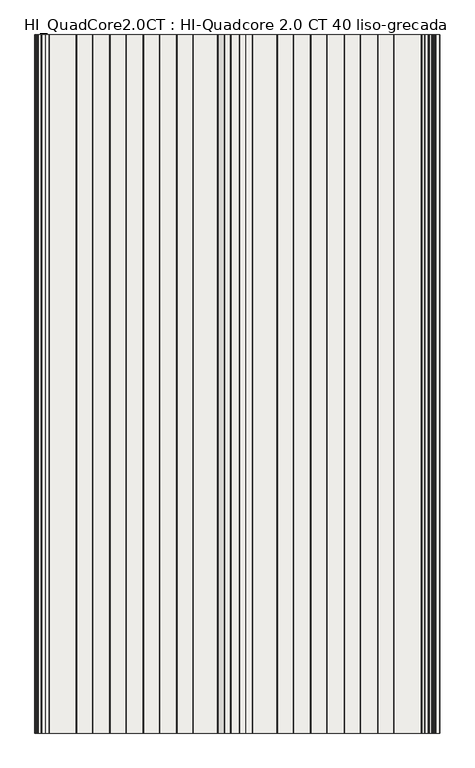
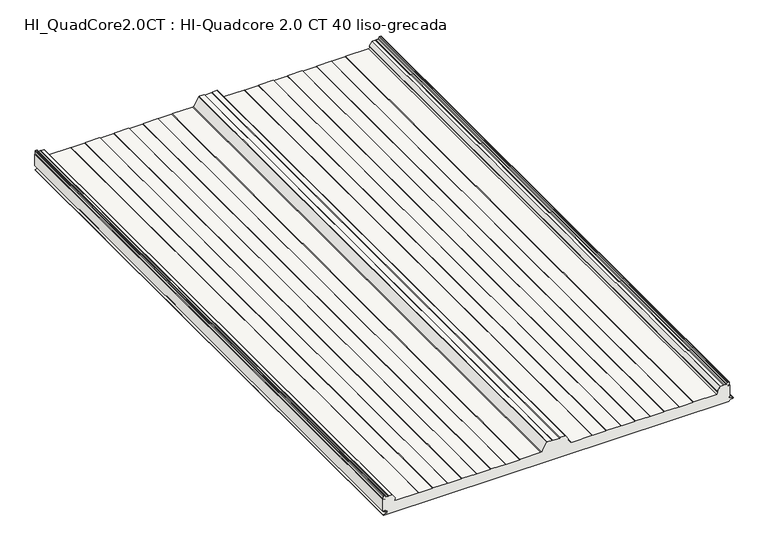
"""IFC4 building model written with IfcOpenShell, lengths in millimetres: slab geometry, HI_QuadCore2.0CT : HI-Quadcore 2.0 CT 40 liso-grecada."""

from ifc_helpers import new_model, si_unit, frame, origin, place, context, project, spatial, polyline, circle_curve, source, transform, mapped, element, save
from ifc_brep_helpers import plane_surface, cylinder_surface, revolved_surface, advanced_brep


def hi_quadcore2_0ct_hi_quadcore_2_0_ct_40_liso_grecada_08016a3a(model_context):
    return source(origin(), model_context, "Body", "AdvancedBrep", [
        advanced_brep(
        [(5.1475465, 0.0, 55.7425833), (1.3824194, 0.0, 57.9163804), (0.0, 0.0, 57.9163804), (0.0, 0.0, 16.239302), (7.510215, 0.0, 16.239302), (7.510215, 0.0, 15.4391074), (3.6125693, 0.0, 15.4391074), (2.4319301, 0.0, 14.2584682), (3.4276302, 0.0, 13.0866965), (11.8278581, 0.0, 11.7547343), (11.7995989, 0.0, 4.4809044), (1.8467032, 0.0, 2.9844289), (2.0100062, 0.0, 0.8), (1147.9590685, 0.0, 0.8), (1149.3391392, 0.0, 2.1800708), (1152.5664905, 0.0, 5.8294074), (1160.7843221, 0.0, 6.8264698), (1160.7843299, 0.0, 9.4135286), (1150.8450446, 0.0, 10.6192254), (1147.8324398, 0.0, 14.0237344), (1147.2282701, 0.0, 15.44), (1142.7624398, 0.0, 15.44), (1142.7624398, 0.0, 16.239302), (1150.0, 0.0, 16.239302), (1150.0, 0.0, 57.9163804), (1148.8824194, 0.0, 57.9163804), (1145.1172924, 0.0, 55.7425833), (1144.7172924, 0.0, 56.4354036), (1148.5824194, 0.0, 58.6669358), (1148.5824194, 0.0, 68.1), (1147.4824194, 0.0, 69.2), (1143.8888221, 0.0, 69.2), (1142.8725546, 0.0, 68.5209518), (1141.0157992, 0.0, 64.0383476), (1138.8631598, 0.0, 62.6), (1132.1371875, 0.0, 62.6), (1130.4324194, 0.0, 61.8110374), (1128.7276514, 0.0, 62.6), (1119.4004541, 0.0, 62.6), (1118.4939153, 0.0, 62.1230469), (1109.1558806, 0.0, 48.5361221), (1109.356723, 0.0, 47.0692788), (1110.3070878, 0.0, 46.2744554), (1107.4852773, 0.0, 39.2), (1031.3816122, 0.0, 39.2), (1029.6495614, 0.0, 38.2), (984.6152775, 0.0, 38.2), (982.8832267, 0.0, 39.2), (935.3816122, 0.0, 39.2), (933.6495614, 0.0, 38.2), (888.6152775, 0.0, 38.2), (886.8832267, 0.0, 39.2), (839.3816122, 0.0, 39.2), (837.6495614, 0.0, 38.2), (792.6152775, 0.0, 38.2), (790.8832267, 0.0, 39.2), (743.3816122, 0.0, 39.2), (741.6495614, 0.0, 38.2), (696.6152775, 0.0, 38.2), (694.8832267, 0.0, 39.2), (625.9029123, 0.0, 39.2), (623.9344839, 0.0, 40.2833287), (605.9445057, 0.0, 68.6885573), (605.0152048, 0.0, 69.2), (588.8816122, 0.0, 69.2), (586.283536, 0.0, 67.7), (563.9813029, 0.0, 67.7), (561.3832267, 0.0, 69.2), (545.2496341, 0.0, 69.2), (544.3203331, 0.0, 68.6885573), (526.330355, 0.0, 40.2833287), (524.3619266, 0.0, 39.2), (455.3816122, 0.0, 39.2), (453.6495614, 0.0, 38.2), (408.6152775, 0.0, 38.2), (406.8832267, 0.0, 39.2), (359.3816122, 0.0, 39.2), (357.6495614, 0.0, 38.2), (312.6152775, 0.0, 38.2), (310.8832267, 0.0, 39.2), (263.3816122, 0.0, 39.2), (261.6495614, 0.0, 38.2), (216.6152775, 0.0, 38.2), (214.8832267, 0.0, 39.2), (167.3816122, 0.0, 39.2), (165.6495614, 0.0, 38.2), (120.6152775, 0.0, 38.2), (118.8832267, 0.0, 39.2), (42.7795617, 0.0, 39.2), (39.9577511, 0.0, 46.2744555), (40.9081159, 0.0, 47.0692788), (41.1089583, 0.0, 48.5361221), (31.7709236, 0.0, 62.1230469), (30.8643848, 0.0, 62.6), (21.5371875, 0.0, 62.6), (19.8324194, 0.0, 61.8110374), (18.1276514, 0.0, 62.6), (11.4016791, 0.0, 62.6), (9.2490397, 0.0, 64.0383476), (7.3922843, 0.0, 68.5209518), (6.3760168, 0.0, 69.2), (2.7824194, 0.0, 69.2), (1.6824194, 0.0, 68.1), (1.6824194, 0.0, 58.6669358), (5.5475465, 0.0, 56.4354036), (5.1475465, 2000.0, 55.7425833), (5.5475465, 2000.0, 56.4354036), (1.6824194, 2000.0, 58.6669358), (1.6824194, 2000.0, 68.1), (2.7824194, 2000.0, 69.2), (6.3760168, 2000.0, 69.2), (7.3922843, 2000.0, 68.5209518), (9.2490397, 2000.0, 64.0383476), (11.4016791, 2000.0, 62.6), (18.1276514, 2000.0, 62.6), (19.8324194, 2000.0, 61.8110374), (21.5371875, 2000.0, 62.6), (30.8643848, 2000.0, 62.6), (31.7709236, 2000.0, 62.1230469), (41.1089583, 2000.0, 48.5361221), (40.9081159, 2000.0, 47.0692788), (39.9577511, 2000.0, 46.2744555), (42.7795617, 2000.0, 39.2), (118.8832267, 2000.0, 39.2), (120.6152775, 2000.0, 38.2), (165.6495614, 2000.0, 38.2), (167.3816122, 2000.0, 39.2), (214.8832267, 2000.0, 39.2), (216.6152775, 2000.0, 38.2), (261.6495614, 2000.0, 38.2), (263.3816122, 2000.0, 39.2), (310.8832267, 2000.0, 39.2), (312.6152775, 2000.0, 38.2), (357.6495614, 2000.0, 38.2), (359.3816122, 2000.0, 39.2), (406.8832267, 2000.0, 39.2), (408.6152775, 2000.0, 38.2), (453.6495614, 2000.0, 38.2), (455.3816122, 2000.0, 39.2), (524.3619266, 2000.0, 39.2), (526.330355, 2000.0, 40.2833287), (544.3203331, 2000.0, 68.6885573), (545.2496341, 2000.0, 69.2), (561.3832267, 2000.0, 69.2), (563.9813029, 2000.0, 67.7), (586.283536, 2000.0, 67.7), (588.8816122, 2000.0, 69.2), (605.0152048, 2000.0, 69.2), (605.9445057, 2000.0, 68.6885573), (623.9344839, 2000.0, 40.2833287), (625.9029123, 2000.0, 39.2), (694.8832267, 2000.0, 39.2), (696.6152775, 2000.0, 38.2), (741.6495614, 2000.0, 38.2), (743.3816122, 2000.0, 39.2), (790.8832267, 2000.0, 39.2), (792.6152775, 2000.0, 38.2), (837.6495614, 2000.0, 38.2), (839.3816122, 2000.0, 39.2), (886.8832267, 2000.0, 39.2), (888.6152775, 2000.0, 38.2), (933.6495614, 2000.0, 38.2), (935.3816122, 2000.0, 39.2), (982.8832267, 2000.0, 39.2), (984.6152775, 2000.0, 38.2), (1029.6495614, 2000.0, 38.2), (1031.3816122, 2000.0, 39.2), (1107.4852773, 2000.0, 39.2), (1110.3070878, 2000.0, 46.2744554), (1109.356723, 2000.0, 47.0692788), (1109.1558806, 2000.0, 48.5361221), (1118.4939153, 2000.0, 62.1230469), (1119.4004541, 2000.0, 62.6), (1128.7276514, 2000.0, 62.6), (1130.4324194, 2000.0, 61.8110374), (1132.1371875, 2000.0, 62.6), (1138.8631598, 2000.0, 62.6), (1141.0157992, 2000.0, 64.0383476), (1142.8725546, 2000.0, 68.5209518), (1143.8888221, 2000.0, 69.2), (1147.4824194, 2000.0, 69.2), (1148.5824194, 2000.0, 68.1), (1148.5824194, 2000.0, 58.6669358), (1144.7172924, 2000.0, 56.4354036), (1145.1172924, 2000.0, 55.7425833), (1148.8824194, 2000.0, 57.9163804), (1150.0, 2000.0, 57.9163804), (1150.0, 2000.0, 16.239302), (1142.7624398, 2000.0, 16.239302), (1142.7624398, 2000.0, 15.44), (1147.2282701, 2000.0, 15.44), (1147.8324398, 2000.0, 14.0237344), (1150.8450446, 2000.0, 10.6192254), (1160.7843299, 2000.0, 9.4135286), (1160.7843221, 2000.0, 6.8264698), (1152.5664905, 2000.0, 5.8294074), (1149.3391392, 2000.0, 2.1800708), (1147.9590685, 2000.0, 0.8), (2.0100062, 2000.0, 0.8), (1.8467032, 2000.0, 2.9844289), (11.7995989, 2000.0, 4.4809044), (11.8278581, 2000.0, 11.7547343), (3.4273037, 2000.0, 13.0846342), (2.4319301, 2000.0, 14.2584682), (3.6125693, 2000.0, 15.4391074), (7.510215, 2000.0, 15.4391074), (7.510215, 2000.0, 16.239302), (0.0, 2000.0, 16.239302), (0.0, 2000.0, 57.9163804), (1.3824194, 2000.0, 57.9163804)],
        [
            (0, 1),
            (1, 2),
            (2, 3),
            (3, 4),
            (4, 5),
            (5, 6),
            (6, 7, circle_curve(frame((3.6125693, 0.0, 14.2584682), z_axis=(0.0, -1.0, 0.0), x_axis=(1.0, 0.0, 0.0)), 1.1806391)),
            (7, 8, circle_curve(frame((3.6121809, 0.0, 14.2524448), z_axis=(0.0, -1.0, 0.0), x_axis=(1.0, 0.0, 0.0)), 1.1802661)),
            (8, 9),
            (9, 10, circle_curve(frame((11.2524398, 0.0, 8.12), z_axis=(0.0, 1.0, 0.0), x_axis=(1.0, 0.0, 0.0)), 3.68)),
            (10, 11),
            (11, 12, circle_curve(frame((2.0100062, 0.0, 1.8983185), z_axis=(0.0, -1.0, 0.0), x_axis=(1.0, 0.0, 0.0)), 1.0983185)),
            (12, 13),
            (13, 14, circle_curve(frame((1147.9590685, 0.0, 2.1800708), z_axis=(0.0, -1.0, 0.0), x_axis=(1.0, 0.0, 0.0)), 1.3800708)),
            (14, 15, circle_curve(frame((1153.0160638, 0.0, 2.1800708), z_axis=(0.0, 1.0, 0.0), x_axis=(1.0, 0.0, 0.0)), 3.6769246)),
            (15, 16),
            (16, 17, circle_curve(frame((1160.5224398, 0.0, 8.12), z_axis=(0.0, -1.0, 0.0), x_axis=(1.0, 0.0, 0.0)), 1.3197737)),
            (17, 18),
            (18, 19, circle_curve(frame((1151.2624398, 0.0, 14.0237344), z_axis=(0.0, 1.0, 0.0), x_axis=(1.0, 0.0, 0.0)), 3.43)),
            (19, 20, circle_curve(frame((1145.8703839, 0.0, 14.0237344), z_axis=(0.0, -1.0, 0.0), x_axis=(1.0, 0.0, 0.0)), 1.9620559)),
            (20, 21),
            (21, 22),
            (22, 23),
            (23, 24),
            (24, 25),
            (25, 26),
            (26, 27),
            (27, 28),
            (28, 29),
            (29, 30, circle_curve(frame((1147.4824194, 0.0, 68.1), z_axis=(0.0, -1.0, 0.0), x_axis=(1.0, 0.0, 0.0)), 1.1)),
            (30, 31),
            (31, 32, circle_curve(frame((1143.8888221, 0.0, 68.1), z_axis=(0.0, -1.0, 0.0), x_axis=(1.0, 0.0, 0.0)), 1.1)),
            (32, 33),
            (33, 34, circle_curve(frame((1138.8631598, 0.0, 64.93), z_axis=(0.0, 1.0, 0.0), x_axis=(1.0, 0.0, 0.0)), 2.33)),
            (34, 35),
            (35, 36),
            (36, 37),
            (37, 38),
            (38, 39, circle_curve(frame((1119.4004541, 0.0, 61.5), z_axis=(0.0, -1.0, 0.0), x_axis=(1.0, 0.0, 0.0)), 1.1)),
            (39, 40),
            (40, 41, circle_curve(frame((1110.0624194, 0.0, 47.9130753), z_axis=(0.0, -1.0, 0.0), x_axis=(1.0, 0.0, 0.0)), 1.1)),
            (41, 42),
            (42, 43, circle_curve(frame((1107.4852773, 0.0, 43.3), z_axis=(0.0, 1.0, 0.0), x_axis=(1.0, 0.0, 0.0)), 4.1)),
            (43, 44),
            (44, 45),
            (45, 46),
            (46, 47),
            (47, 48),
            (48, 49),
            (49, 50),
            (50, 51),
            (51, 52),
            (52, 53),
            (53, 54),
            (54, 55),
            (55, 56),
            (56, 57),
            (57, 58),
            (58, 59),
            (59, 60),
            (60, 61, circle_curve(frame((625.9029123, 0.0, 41.53), z_axis=(0.0, 1.0, 0.0), x_axis=(1.0, 0.0, 0.0)), 2.33)),
            (61, 62),
            (62, 63, circle_curve(frame((605.0152048, 0.0, 68.1), z_axis=(0.0, -1.0, 0.0), x_axis=(1.0, 0.0, 0.0)), 1.1)),
            (63, 64),
            (64, 65),
            (65, 66),
            (66, 67),
            (67, 68),
            (68, 69, circle_curve(frame((545.2496341, 0.0, 68.1), z_axis=(0.0, -1.0, 0.0), x_axis=(1.0, 0.0, 0.0)), 1.1)),
            (69, 70),
            (70, 71, circle_curve(frame((524.3619266, 0.0, 41.53), z_axis=(0.0, 1.0, 0.0), x_axis=(1.0, 0.0, 0.0)), 2.33)),
            (71, 72),
            (72, 73),
            (73, 74),
            (74, 75),
            (75, 76),
            (76, 77),
            (77, 78),
            (78, 79),
            (79, 80),
            (80, 81),
            (81, 82),
            (82, 83),
            (83, 84),
            (84, 85),
            (85, 86),
            (86, 87),
            (87, 88),
            (88, 89, circle_curve(frame((42.7795617, 0.0, 43.3), z_axis=(0.0, 1.0, 0.0), x_axis=(1.0, 0.0, 0.0)), 4.1)),
            (89, 90),
            (90, 91, circle_curve(frame((40.2024195, 0.0, 47.9130752), z_axis=(0.0, -1.0, 0.0), x_axis=(1.0, 0.0, 0.0)), 1.1)),
            (91, 92),
            (92, 93, circle_curve(frame((30.8643848, 0.0, 61.5), z_axis=(0.0, -1.0, 0.0), x_axis=(1.0, 0.0, 0.0)), 1.1)),
            (93, 94),
            (94, 95),
            (95, 96),
            (96, 97),
            (97, 98, circle_curve(frame((11.4016791, 0.0, 64.93), z_axis=(0.0, 1.0, 0.0), x_axis=(1.0, 0.0, 0.0)), 2.33)),
            (98, 99),
            (99, 100, circle_curve(frame((6.3760168, 0.0, 68.1), z_axis=(0.0, -1.0, 0.0), x_axis=(1.0, 0.0, 0.0)), 1.1)),
            (100, 101),
            (101, 102, circle_curve(frame((2.7824194, 0.0, 68.1), z_axis=(0.0, -1.0, 0.0), x_axis=(1.0, 0.0, 0.0)), 1.1)),
            (102, 103),
            (103, 104),
            (104, 0),
            (105, 106),
            (106, 107),
            (107, 108),
            (108, 109, circle_curve(frame((2.7824194, 2000.0, 68.1), z_axis=(0.0, 1.0, 0.0), x_axis=(1.0, 0.0, 0.0)), 1.1)),
            (109, 110),
            (110, 111, circle_curve(frame((6.3760168, 2000.0, 68.1), z_axis=(0.0, 1.0, 0.0), x_axis=(1.0, 0.0, 0.0)), 1.1)),
            (111, 112),
            (112, 113, circle_curve(frame((11.4016791, 2000.0, 64.93), z_axis=(0.0, -1.0, 0.0), x_axis=(1.0, 0.0, 0.0)), 2.33)),
            (113, 114),
            (114, 115),
            (115, 116),
            (116, 117),
            (117, 118, circle_curve(frame((30.8643848, 2000.0, 61.5), z_axis=(0.0, 1.0, 0.0), x_axis=(1.0, 0.0, 0.0)), 1.1)),
            (118, 119),
            (119, 120, circle_curve(frame((40.2024195, 2000.0, 47.9130752), z_axis=(0.0, 1.0, 0.0), x_axis=(1.0, 0.0, 0.0)), 1.1)),
            (120, 121),
            (121, 122, circle_curve(frame((42.7795617, 2000.0, 43.3), z_axis=(0.0, -1.0, 0.0), x_axis=(1.0, 0.0, 0.0)), 4.1)),
            (122, 123),
            (123, 124),
            (124, 125),
            (125, 126),
            (126, 127),
            (127, 128),
            (128, 129),
            (129, 130),
            (130, 131),
            (131, 132),
            (132, 133),
            (133, 134),
            (134, 135),
            (135, 136),
            (136, 137),
            (137, 138),
            (138, 139),
            (139, 140, circle_curve(frame((524.3619266, 2000.0, 41.53), z_axis=(0.0, -1.0, 0.0), x_axis=(1.0, 0.0, 0.0)), 2.33)),
            (140, 141),
            (141, 142, circle_curve(frame((545.2496341, 2000.0, 68.1), z_axis=(0.0, 1.0, 0.0), x_axis=(1.0, 0.0, 0.0)), 1.1)),
            (142, 143),
            (143, 144),
            (144, 145),
            (145, 146),
            (146, 147),
            (147, 148, circle_curve(frame((605.0152048, 2000.0, 68.1), z_axis=(0.0, 1.0, 0.0), x_axis=(1.0, 0.0, 0.0)), 1.1)),
            (148, 149),
            (149, 150, circle_curve(frame((625.9029123, 2000.0, 41.53), z_axis=(0.0, -1.0, 0.0), x_axis=(1.0, 0.0, 0.0)), 2.33)),
            (150, 151),
            (151, 152),
            (152, 153),
            (153, 154),
            (154, 155),
            (155, 156),
            (156, 157),
            (157, 158),
            (158, 159),
            (159, 160),
            (160, 161),
            (161, 162),
            (162, 163),
            (163, 164),
            (164, 165),
            (165, 166),
            (166, 167),
            (167, 168, circle_curve(frame((1107.4852773, 2000.0, 43.3), z_axis=(0.0, -1.0, 0.0), x_axis=(1.0, 0.0, 0.0)), 4.1)),
            (168, 169),
            (169, 170, circle_curve(frame((1110.0624194, 2000.0, 47.9130753), z_axis=(0.0, 1.0, 0.0), x_axis=(1.0, 0.0, 0.0)), 1.1)),
            (170, 171),
            (171, 172, circle_curve(frame((1119.4004541, 2000.0, 61.5), z_axis=(0.0, 1.0, 0.0), x_axis=(1.0, 0.0, 0.0)), 1.1)),
            (172, 173),
            (173, 174),
            (174, 175),
            (175, 176),
            (176, 177, circle_curve(frame((1138.8631598, 2000.0, 64.93), z_axis=(0.0, -1.0, 0.0), x_axis=(1.0, 0.0, 0.0)), 2.33)),
            (177, 178),
            (178, 179, circle_curve(frame((1143.8888221, 2000.0, 68.1), z_axis=(0.0, 1.0, 0.0), x_axis=(1.0, 0.0, 0.0)), 1.1)),
            (179, 180),
            (180, 181, circle_curve(frame((1147.4824194, 2000.0, 68.1), z_axis=(0.0, 1.0, 0.0), x_axis=(1.0, 0.0, 0.0)), 1.1)),
            (181, 182),
            (182, 183),
            (183, 184),
            (184, 185),
            (185, 186),
            (186, 187),
            (187, 188),
            (188, 189),
            (189, 190),
            (190, 191, circle_curve(frame((1145.8703839, 2000.0, 14.0237344), z_axis=(0.0, 1.0, 0.0), x_axis=(1.0, 0.0, 0.0)), 1.9620559)),
            (191, 192, circle_curve(frame((1151.2624398, 2000.0, 14.0237344), z_axis=(0.0, -1.0, 0.0), x_axis=(1.0, 0.0, 0.0)), 3.43)),
            (192, 193),
            (193, 194, circle_curve(frame((1160.5224398, 2000.0, 8.12), z_axis=(0.0, 1.0, 0.0), x_axis=(1.0, 0.0, 0.0)), 1.3197737)),
            (194, 195),
            (195, 196, circle_curve(frame((1153.0160638, 2000.0, 2.1800708), z_axis=(0.0, -1.0, 0.0), x_axis=(1.0, 0.0, 0.0)), 3.6769246)),
            (196, 197, circle_curve(frame((1147.9590685, 2000.0, 2.1800708), z_axis=(0.0, 1.0, 0.0), x_axis=(1.0, 0.0, 0.0)), 1.3800708)),
            (197, 198),
            (198, 199, circle_curve(frame((2.0100062, 2000.0, 1.8983185), z_axis=(0.0, 1.0, 0.0), x_axis=(1.0, 0.0, 0.0)), 1.0983185)),
            (199, 200),
            (200, 201, circle_curve(frame((11.2524398, 2000.0, 8.12), z_axis=(0.0, -1.0, 0.0), x_axis=(1.0, 0.0, 0.0)), 3.68)),
            (201, 202),
            (202, 203, circle_curve(frame((3.6121809, 2000.0, 14.2524448), z_axis=(0.0, 1.0, 0.0), x_axis=(1.0, 0.0, 0.0)), 1.1802661)),
            (203, 204, circle_curve(frame((3.6125693, 2000.0, 14.2584682), z_axis=(0.0, 1.0, 0.0), x_axis=(1.0, 0.0, 0.0)), 1.1806391)),
            (204, 205),
            (205, 206),
            (206, 207),
            (207, 208),
            (208, 209),
            (209, 105),
            (0, 105),
            (209, 1),
            (208, 2),
            (207, 3),
            (186, 24),
            (23, 187),
            (185, 25),
            (184, 26),
            (183, 27),
            (182, 28),
            (181, 29),
            (180, 30),
            (179, 31),
            (178, 32),
            (177, 33),
            (176, 34),
            (175, 35),
            (174, 36),
            (173, 37),
            (172, 38),
            (171, 39),
            (170, 40),
            (169, 41),
            (168, 42),
            (167, 43),
            (166, 44),
            (165, 45),
            (164, 46),
            (163, 47),
            (162, 48),
            (161, 49),
            (160, 50),
            (159, 51),
            (158, 52),
            (157, 53),
            (156, 54),
            (155, 55),
            (154, 56),
            (153, 57),
            (152, 58),
            (151, 59),
            (150, 60),
            (149, 61),
            (148, 62),
            (147, 63),
            (146, 64),
            (145, 65),
            (144, 66),
            (143, 67),
            (142, 68),
            (141, 69),
            (140, 70),
            (139, 71),
            (138, 72),
            (137, 73),
            (136, 74),
            (135, 75),
            (134, 76),
            (133, 77),
            (132, 78),
            (131, 79),
            (130, 80),
            (129, 81),
            (128, 82),
            (127, 83),
            (126, 84),
            (125, 85),
            (124, 86),
            (123, 87),
            (122, 88),
            (121, 89),
            (120, 90),
            (119, 91),
            (118, 92),
            (117, 93),
            (116, 94),
            (115, 95),
            (114, 96),
            (113, 97),
            (112, 98),
            (111, 99),
            (110, 100),
            (109, 101),
            (108, 102),
            (107, 103),
            (106, 104),
            (22, 188),
            (206, 4),
            (205, 5),
            (204, 6),
            (203, 7),
            (202, 8),
            (201, 9),
            (200, 10),
            (199, 11),
            (198, 12),
            (197, 13),
            (196, 14),
            (195, 15),
            (194, 16),
            (193, 17),
            (192, 18),
            (191, 19),
            (190, 20),
            (189, 21),
        ],
        [
            plane_surface(frame((1.3824194, 0.0, 57.9163804), z_axis=(0.0, -1.0, 0.0), x_axis=(-0.866025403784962, 0.0, 0.4999999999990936))),
            plane_surface(frame((1.3824194, 2000.0, 57.9163804), z_axis=(0.0, 1.0, 0.0), x_axis=(0.866025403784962, 0.0, -0.4999999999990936))),
            plane_surface(frame((5.1475465, 0.0, 55.7425833), z_axis=(0.4999999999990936, 0.0, 0.866025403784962), x_axis=(0.0, 1.0, 0.0))),
            plane_surface(frame((1.3824194, 0.0, 57.9163804), z_axis=(0.0, 0.0, 1.0), x_axis=(0.0, 1.0, 0.0))),
            plane_surface(frame((0.0, 0.0, 57.9163804), z_axis=(-1.0, 0.0, 0.0), x_axis=(0.0, 1.0, 0.0))),
            plane_surface(frame((1150.0, 0.0, 30.0), z_axis=(1.0, 0.0, 0.0), x_axis=(0.0, 1.0, 0.0))),
            plane_surface(frame((1150.0, 0.0, 57.9163804), z_axis=(0.0, 0.0, 1.0), x_axis=(0.0, 1.0, 0.0))),
            plane_surface(frame((1148.8824194, 0.0, 57.9163804), z_axis=(-0.4999999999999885, 0.0, 0.8660254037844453), x_axis=(0.0, 1.0, 0.0))),
            plane_surface(frame((1145.1172924, 0.0, 55.7425833), z_axis=(0.8660254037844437, 0.0, 0.49999999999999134), x_axis=(0.0, 1.0, 0.0))),
            plane_surface(frame((1144.7172924, 0.0, 56.4354036), z_axis=(0.4999999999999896, 0.0, -0.8660254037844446), x_axis=(0.0, 1.0, 0.0))),
            plane_surface(frame((1148.5824194, 0.0, 58.6669358), z_axis=(1.0, 0.0, 0.0), x_axis=(0.0, 1.0, 0.0))),
            cylinder_surface(frame((1147.4824194, 2000.0, 68.1), z_axis=(0.0, -1.0, 0.0), x_axis=(1.0, 0.0, 0.0)), 1.1),
            plane_surface(frame((1147.4824194, 0.0, 69.2), z_axis=(0.0, 0.0, 1.0), x_axis=(0.0, 1.0, 0.0))),
            cylinder_surface(frame((1143.8888221, 2000.0, 68.1), z_axis=(0.0, -1.0, 0.0), x_axis=(1.0, 0.0, 0.0)), 1.1),
            plane_surface(frame((1142.8725546, 0.0, 68.5209518), z_axis=(-0.9238795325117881, 0.0, 0.38268343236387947), x_axis=(0.0, 1.0, 0.0))),
            revolved_surface(polyline([(1141.1931597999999, 2000.0, 64.93), (1141.1931597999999, 0.0, 64.93)]), (1138.8631598, 2000.0, 64.93), (0.0, 1.0, 0.0)),
            plane_surface(frame((1138.8631598, 0.0, 62.6), z_axis=(0.0, 0.0, 1.0), x_axis=(0.0, 1.0, 0.0))),
            plane_surface(frame((1132.1371875, 0.0, 62.6), z_axis=(-0.4199999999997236, 0.0, 0.9075241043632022), x_axis=(0.0, 1.0, 0.0))),
            plane_surface(frame((1130.4324194, 0.0, 61.8110374), z_axis=(0.42000000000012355, 0.0, 0.9075241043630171), x_axis=(0.0, 1.0, 0.0))),
            plane_surface(frame((1128.7276514, 0.0, 62.6), z_axis=(0.0, 0.0, 1.0), x_axis=(0.0, 1.0, 0.0))),
            cylinder_surface(frame((1119.4004541, 2000.0, 61.5), z_axis=(0.0, -1.0, 0.0), x_axis=(1.0, 0.0, 0.0)), 1.1),
            plane_surface(frame((1118.4939153, 0.0, 62.1230469), z_axis=(-0.824126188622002, 0.0, 0.5664062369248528), x_axis=(0.0, 1.0, 0.0))),
            cylinder_surface(frame((1110.0624194, 2000.0, 47.9130753), z_axis=(0.0, -1.0, 0.0), x_axis=(1.0, 0.0, 0.0)), 1.1),
            plane_surface(frame((1109.356723, 0.0, 47.0692788), z_axis=(-0.6415422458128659, 0.0, -0.7670877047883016), x_axis=(0.0, 1.0, 0.0))),
            revolved_surface(polyline([(1111.5852773, 2000.0, 43.3), (1111.5852773, 0.0, 43.3)]), (1107.4852773, 2000.0, 43.3), (0.0, 1.0, 0.0)),
            plane_surface(frame((1107.4852773, 0.0, 39.2), z_axis=(0.0, 0.0, 1.0), x_axis=(0.0, 1.0, 0.0))),
            plane_surface(frame((1031.3816122, 0.0, 39.2), z_axis=(-0.4999999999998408, 0.0, 0.8660254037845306), x_axis=(0.0, 1.0, 0.0))),
            plane_surface(frame((1029.6495614, 0.0, 38.2), z_axis=(0.0, 0.0, 1.0), x_axis=(0.0, 1.0, 0.0))),
            plane_surface(frame((984.6152775, 0.0, 38.2), z_axis=(0.4999999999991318, 0.0, 0.86602540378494), x_axis=(0.0, 1.0, 0.0))),
            plane_surface(frame((982.8832267, 0.0, 39.2), z_axis=(0.0, 0.0, 1.0), x_axis=(0.0, 1.0, 0.0))),
            plane_surface(frame((935.3816122, 0.0, 39.2), z_axis=(-0.49999999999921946, 0.0, 0.8660254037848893), x_axis=(0.0, 1.0, 0.0))),
            plane_surface(frame((933.6495614, 0.0, 38.2), z_axis=(0.0, 0.0, 1.0), x_axis=(0.0, 1.0, 0.0))),
            plane_surface(frame((888.6152775, 0.0, 38.2), z_axis=(0.49999999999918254, 0.0, 0.8660254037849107), x_axis=(0.0, 1.0, 0.0))),
            plane_surface(frame((886.8832267, 0.0, 39.2), z_axis=(0.0, 0.0, 1.0), x_axis=(0.0, 1.0, 0.0))),
            plane_surface(frame((839.3816122, 0.0, 39.2), z_axis=(-0.4999999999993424, 0.0, 0.8660254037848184), x_axis=(0.0, 1.0, 0.0))),
            plane_surface(frame((837.6495614, 0.0, 38.2), z_axis=(0.0, 0.0, 1.0), x_axis=(0.0, 1.0, 0.0))),
            plane_surface(frame((792.6152775, 0.0, 38.2), z_axis=(0.4999999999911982, 0.0, 0.8660254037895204), x_axis=(0.0, 1.0, 0.0))),
            plane_surface(frame((790.8832267, 0.0, 39.2), z_axis=(0.0, 0.0, 1.0), x_axis=(0.0, 1.0, 0.0))),
            plane_surface(frame((743.3816122, 0.0, 39.2), z_axis=(-0.5000000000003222, 0.0, 0.8660254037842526), x_axis=(0.0, 1.0, 0.0))),
            plane_surface(frame((741.6495614, 0.0, 38.2), z_axis=(0.0, 0.0, 1.0), x_axis=(0.0, 1.0, 0.0))),
            plane_surface(frame((696.6152775, 0.0, 38.2), z_axis=(0.5000000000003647, 0.0, 0.8660254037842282), x_axis=(0.0, 1.0, 0.0))),
            plane_surface(frame((694.8832267, 0.0, 39.2), z_axis=(0.0, 0.0, 1.0), x_axis=(0.0, 1.0, 0.0))),
            revolved_surface(polyline([(628.2329123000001, 2000.0, 41.53), (628.2329123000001, 0.0, 41.53)]), (625.9029123, 2000.0, 41.53), (0.0, 1.0, 0.0)),
            plane_surface(frame((623.9344839, 0.0, 40.2833287), z_axis=(0.8448190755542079, 0.0, 0.5350520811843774), x_axis=(0.0, 1.0, 0.0))),
            cylinder_surface(frame((605.0152048, 2000.0, 68.1), z_axis=(0.0, -1.0, 0.0), x_axis=(1.0, 0.0, 0.0)), 1.1),
            plane_surface(frame((605.0152048, 0.0, 69.2), z_axis=(0.0, 0.0, 1.0), x_axis=(0.0, 1.0, 0.0))),
            plane_surface(frame((588.8816122, 0.0, 69.2), z_axis=(-0.4999999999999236, 0.0, 0.8660254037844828), x_axis=(0.0, 1.0, 0.0))),
            plane_surface(frame((586.283536, 0.0, 67.7), z_axis=(0.0, 0.0, 1.0), x_axis=(0.0, 1.0, 0.0))),
            plane_surface(frame((563.9813029, 0.0, 67.7), z_axis=(0.5000000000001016, 0.0, 0.86602540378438), x_axis=(0.0, 1.0, 0.0))),
            plane_surface(frame((561.3832267, 0.0, 69.2), z_axis=(0.0, 0.0, 1.0), x_axis=(0.0, 1.0, 0.0))),
            cylinder_surface(frame((545.2496341, 2000.0, 68.1), z_axis=(0.0, -1.0, 0.0), x_axis=(1.0, 0.0, 0.0)), 1.1),
            plane_surface(frame((544.3203331, 0.0, 68.6885573), z_axis=(-0.8448190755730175, 0.0, 0.5350520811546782), x_axis=(0.0, 1.0, 0.0))),
            revolved_surface(polyline([(526.6919266, 2000.0, 41.53), (526.6919266, 0.0, 41.53)]), (524.3619266, 2000.0, 41.53), (0.0, 1.0, 0.0)),
            plane_surface(frame((524.3619266, 0.0, 39.2), z_axis=(0.0, 0.0, 1.0), x_axis=(0.0, 1.0, 0.0))),
            plane_surface(frame((455.3816122, 0.0, 39.2), z_axis=(-0.5000000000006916, 0.0, 0.8660254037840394), x_axis=(0.0, 1.0, 0.0))),
            plane_surface(frame((453.6495614, 0.0, 38.2), z_axis=(0.0, 0.0, 1.0), x_axis=(0.0, 1.0, 0.0))),
            plane_surface(frame((408.6152775, 0.0, 38.2), z_axis=(0.49999999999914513, 0.0, 0.8660254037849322), x_axis=(0.0, 1.0, 0.0))),
            plane_surface(frame((406.8832267, 0.0, 39.2), z_axis=(0.0, 0.0, 1.0), x_axis=(0.0, 1.0, 0.0))),
            plane_surface(frame((359.3816122, 0.0, 39.2), z_axis=(-0.500000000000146, 0.0, 0.8660254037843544), x_axis=(0.0, 1.0, 0.0))),
            plane_surface(frame((357.6495614, 0.0, 38.2), z_axis=(0.0, 0.0, 1.0), x_axis=(0.0, 1.0, 0.0))),
            plane_surface(frame((312.6152775, 0.0, 38.2), z_axis=(0.49999999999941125, 0.0, 0.8660254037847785), x_axis=(0.0, 1.0, 0.0))),
            plane_surface(frame((310.8832267, 0.0, 39.2), z_axis=(0.0, 0.0, 1.0), x_axis=(0.0, 1.0, 0.0))),
            plane_surface(frame((263.3816122, 0.0, 39.2), z_axis=(-0.4999999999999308, 0.0, 0.8660254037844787), x_axis=(0.0, 1.0, 0.0))),
            plane_surface(frame((261.6495614, 0.0, 38.2), z_axis=(0.0, 0.0, 1.0), x_axis=(0.0, 1.0, 0.0))),
            plane_surface(frame((216.6152775, 0.0, 38.2), z_axis=(0.49999999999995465, 0.0, 0.8660254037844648), x_axis=(0.0, 1.0, 0.0))),
            plane_surface(frame((214.8832267, 0.0, 39.2), z_axis=(0.0, 0.0, 1.0), x_axis=(0.0, 1.0, 0.0))),
            plane_surface(frame((167.3816122, 0.0, 39.2), z_axis=(-0.5000000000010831, 0.0, 0.8660254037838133), x_axis=(0.0, 1.0, 0.0))),
            plane_surface(frame((165.6495614, 0.0, 38.2), z_axis=(0.0, 0.0, 1.0), x_axis=(0.0, 1.0, 0.0))),
            plane_surface(frame((120.6152775, 0.0, 38.2), z_axis=(0.4999999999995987, 0.0, 0.8660254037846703), x_axis=(0.0, 1.0, 0.0))),
            plane_surface(frame((118.8832267, 0.0, 39.2), z_axis=(0.0, 0.0, 1.0), x_axis=(0.0, 1.0, 0.0))),
            revolved_surface(polyline([(46.879561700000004, 2000.0, 43.3), (46.879561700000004, 0.0, 43.3)]), (42.7795617, 2000.0, 43.3), (0.0, 1.0, 0.0)),
            plane_surface(frame((39.9577511, 0.0, 46.2744555), z_axis=(0.6415422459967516, 0.0, -0.7670877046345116), x_axis=(0.0, 1.0, 0.0))),
            cylinder_surface(frame((40.2024195, 2000.0, 47.9130752), z_axis=(0.0, -1.0, 0.0), x_axis=(1.0, 0.0, 0.0)), 1.1),
            plane_surface(frame((41.1089583, 0.0, 48.5361221), z_axis=(0.8241261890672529, 0.0, 0.5664062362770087), x_axis=(0.0, 1.0, 0.0))),
            cylinder_surface(frame((30.8643848, 2000.0, 61.5), z_axis=(0.0, -1.0, 0.0), x_axis=(1.0, 0.0, 0.0)), 1.1),
            plane_surface(frame((30.8643848, 0.0, 62.6), z_axis=(0.0, 0.0, 1.0), x_axis=(0.0, 1.0, 0.0))),
            plane_surface(frame((21.5371875, 0.0, 62.6), z_axis=(-0.4199999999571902, 0.0, 0.9075241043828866), x_axis=(0.0, 1.0, 0.0))),
            plane_surface(frame((19.8324194, 0.0, 61.8110374), z_axis=(0.4200000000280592, 0.0, 0.9075241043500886), x_axis=(0.0, 1.0, 0.0))),
            plane_surface(frame((18.1276514, 0.0, 62.6), z_axis=(0.0, 0.0, 1.0), x_axis=(0.0, 1.0, 0.0))),
            revolved_surface(polyline([(13.731679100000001, 2000.0, 64.93), (13.731679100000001, 0.0, 64.93)]), (11.4016791, 2000.0, 64.93), (0.0, 1.0, 0.0)),
            plane_surface(frame((9.2490397, 0.0, 64.0383476), z_axis=(0.9238795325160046, 0.0, 0.3826834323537), x_axis=(0.0, 1.0, 0.0))),
            cylinder_surface(frame((6.3760168, 2000.0, 68.1), z_axis=(0.0, -1.0, 0.0), x_axis=(1.0, 0.0, 0.0)), 1.1),
            plane_surface(frame((6.3760168, 0.0, 69.2), z_axis=(0.0, 0.0, 1.0), x_axis=(0.0, 1.0, 0.0))),
            cylinder_surface(frame((2.7824194, 2000.0, 68.1), z_axis=(0.0, -1.0, 0.0), x_axis=(1.0, 0.0, 0.0)), 1.1),
            plane_surface(frame((1.6824194, 0.0, 68.1), z_axis=(-1.0, 0.0, 0.0), x_axis=(0.0, 1.0, 0.0))),
            plane_surface(frame((1.6824194, 0.0, 58.6669358), z_axis=(-0.49999999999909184, 0.0, -0.866025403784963), x_axis=(0.0, 1.0, 0.0))),
            plane_surface(frame((5.5475465, 0.0, 56.4354036), z_axis=(-0.866025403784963, 0.0, 0.4999999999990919), x_axis=(0.0, 1.0, 0.0))),
            plane_surface(frame((0.0, 0.0, 16.239302), z_axis=(0.0, 0.0, -1.0), x_axis=(0.0, 1.0, 0.0))),
            plane_surface(frame((7.510215, 0.0, 16.239302), z_axis=(-1.0, 0.0, 0.0), x_axis=(0.0, 1.0, 0.0))),
            plane_surface(frame((7.510215, 0.0, 15.4391074), z_axis=(0.0, 0.0, 1.0), x_axis=(0.0, 1.0, 0.0))),
            cylinder_surface(frame((3.6125693, 2000.0, 14.2584682), z_axis=(0.0, -1.0, 0.0), x_axis=(1.0, 0.0, 0.0)), 1.1806391),
            cylinder_surface(frame((3.6121809, 2000.0, 14.2524448), z_axis=(0.0, -1.0, 0.0), x_axis=(1.0, 0.0, 0.0)), 1.1802661),
            plane_surface(frame((3.4273037, 0.0, 13.0846342), z_axis=(-0.1563636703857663, 0.0, -0.9876995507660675), x_axis=(0.0, 1.0, 0.0))),
            revolved_surface(polyline([(14.9324398, 2000.0, 8.12), (14.9324398, 0.0, 8.12)]), (11.2524398, 2000.0, 8.12), (0.0, 1.0, 0.0)),
            plane_surface(frame((11.7995989, 0.0, 4.4809044), z_axis=(-0.14868453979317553, 0.0, 0.9888846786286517), x_axis=(0.0, 1.0, 0.0))),
            cylinder_surface(frame((2.0100062, 2000.0, 1.8983185), z_axis=(0.0, -1.0, 0.0), x_axis=(1.0, 0.0, 0.0)), 1.0983185),
            plane_surface(frame((2.0100062, 0.0, 0.8), z_axis=(0.0, 0.0, -1.0), x_axis=(0.0, 1.0, 0.0))),
            cylinder_surface(frame((1147.9590685, 2000.0, 2.1800708), z_axis=(0.0, -1.0, 0.0), x_axis=(1.0, 0.0, 0.0)), 1.3800708),
            revolved_surface(polyline([(1156.6929883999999, 2000.0, 2.1800708), (1156.6929883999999, 0.0, 2.1800708)]), (1153.0160638, 2000.0, 2.1800708), (0.0, 1.0, 0.0)),
            plane_surface(frame((1152.5664905, 0.0, 5.8294074), z_axis=(0.12044584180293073, 0.0, -0.9927198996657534), x_axis=(0.0, 1.0, 0.0))),
            cylinder_surface(frame((1160.5224398, 2000.0, 8.12), z_axis=(0.0, -1.0, 0.0), x_axis=(1.0, 0.0, 0.0)), 1.3197737),
            plane_surface(frame((1160.7843299, 0.0, 9.4135286), z_axis=(0.12042339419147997, 0.0, 0.9927226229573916), x_axis=(0.0, 1.0, 0.0))),
            revolved_surface(polyline([(1154.6924398, 2000.0, 14.0237344), (1154.6924398, 0.0, 14.0237344)]), (1151.2624398, 2000.0, 14.0237344), (0.0, 1.0, 0.0)),
            cylinder_surface(frame((1145.8703839, 2000.0, 14.0237344), z_axis=(0.0, -1.0, 0.0), x_axis=(1.0, 0.0, 0.0)), 1.9620559),
            plane_surface(frame((1147.2282701, 0.0, 15.44), z_axis=(0.0, 0.0, 1.0), x_axis=(0.0, 1.0, 0.0))),
            plane_surface(frame((1142.7624398, 0.0, 15.44), z_axis=(1.0, 0.0, 0.0), x_axis=(0.0, 1.0, 0.0))),
        ],
        [
            (0, [[1, 2, 3, 4, 5, 6, 7, 8, 9, 10, 11, 12, 13, 14, 15, 16, 17, 18, 19, 20, 21, 22, 23, 24, 25, 26, 27, 28, 29, 30, 31, 32, 33, 34, 35, 36, 37, 38, 39, 40, 41, 42, 43, 44, 45, 46, 47, 48, 49, 50, 51, 52, 53, 54, 55, 56, 57, 58, 59, 60, 61, 62, 63, 64, 65, 66, 67, 68, 69, 70, 71, 72, 73, 74, 75, 76, 77, 78, 79, 80, 81, 82, 83, 84, 85, 86, 87, 88, 89, 90, 91, 92, 93, 94, 95, 96, 97, 98, 99, 100, 101, 102, 103, 104, 105]]),
            (1, [[106, 107, 108, 109, 110, 111, 112, 113, 114, 115, 116, 117, 118, 119, 120, 121, 122, 123, 124, 125, 126, 127, 128, 129, 130, 131, 132, 133, 134, 135, 136, 137, 138, 139, 140, 141, 142, 143, 144, 145, 146, 147, 148, 149, 150, 151, 152, 153, 154, 155, 156, 157, 158, 159, 160, 161, 162, 163, 164, 165, 166, 167, 168, 169, 170, 171, 172, 173, 174, 175, 176, 177, 178, 179, 180, 181, 182, 183, 184, 185, 186, 187, 188, 189, 190, 191, 192, 193, 194, 195, 196, 197, 198, 199, 200, 201, 202, 203, 204, 205, 206, 207, 208, 209, 210]]),
            (2, [[-1, 211, -210, 212]]),
            (3, [[-2, -212, -209, 213]]),
            (4, [[-213, -208, 214, -3]]),
            (5, [[215, -24, 216, -187]]),
            (6, [[-25, -215, -186, 217]]),
            (7, [[-26, -217, -185, 218]]),
            (8, [[-27, -218, -184, 219]]),
            (9, [[-28, -219, -183, 220]]),
            (10, [[-29, -220, -182, 221]]),
            (11, [[-30, -221, -181, 222]]),
            (12, [[-31, -222, -180, 223]]),
            (13, [[-32, -223, -179, 224]]),
            (14, [[-33, -224, -178, 225]]),
            (15, [[-34, -225, -177, 226]]),
            (16, [[-35, -226, -176, 227]]),
            (17, [[-36, -227, -175, 228]]),
            (18, [[-37, -228, -174, 229]]),
            (19, [[-38, -229, -173, 230]]),
            (20, [[-39, -230, -172, 231]]),
            (21, [[-40, -231, -171, 232]]),
            (22, [[-41, -232, -170, 233]]),
            (23, [[-42, -233, -169, 234]]),
            (24, [[-43, -234, -168, 235]]),
            (25, [[-44, -235, -167, 236]]),
            (26, [[-45, -236, -166, 237]]),
            (27, [[-46, -237, -165, 238]]),
            (28, [[-47, -238, -164, 239]]),
            (29, [[-48, -239, -163, 240]]),
            (30, [[-49, -240, -162, 241]]),
            (31, [[-50, -241, -161, 242]]),
            (32, [[-51, -242, -160, 243]]),
            (33, [[-52, -243, -159, 244]]),
            (34, [[-53, -244, -158, 245]]),
            (35, [[-54, -245, -157, 246]]),
            (36, [[-55, -246, -156, 247]]),
            (37, [[-56, -247, -155, 248]]),
            (38, [[-57, -248, -154, 249]]),
            (39, [[-58, -249, -153, 250]]),
            (40, [[-59, -250, -152, 251]]),
            (41, [[-60, -251, -151, 252]]),
            (42, [[-61, -252, -150, 253]]),
            (43, [[-62, -253, -149, 254]]),
            (44, [[-63, -254, -148, 255]]),
            (45, [[-64, -255, -147, 256]]),
            (46, [[-65, -256, -146, 257]]),
            (47, [[-66, -257, -145, 258]]),
            (48, [[-67, -258, -144, 259]]),
            (49, [[-68, -259, -143, 260]]),
            (50, [[-69, -260, -142, 261]]),
            (51, [[-70, -261, -141, 262]]),
            (52, [[-71, -262, -140, 263]]),
            (53, [[-72, -263, -139, 264]]),
            (54, [[-73, -264, -138, 265]]),
            (55, [[-74, -265, -137, 266]]),
            (56, [[-75, -266, -136, 267]]),
            (57, [[-76, -267, -135, 268]]),
            (58, [[-77, -268, -134, 269]]),
            (59, [[-78, -269, -133, 270]]),
            (60, [[-79, -270, -132, 271]]),
            (61, [[-80, -271, -131, 272]]),
            (62, [[-81, -272, -130, 273]]),
            (63, [[-82, -273, -129, 274]]),
            (64, [[-83, -274, -128, 275]]),
            (65, [[-84, -275, -127, 276]]),
            (66, [[-85, -276, -126, 277]]),
            (67, [[-86, -277, -125, 278]]),
            (68, [[-87, -278, -124, 279]]),
            (69, [[-88, -279, -123, 280]]),
            (70, [[-89, -280, -122, 281]]),
            (71, [[-90, -281, -121, 282]]),
            (72, [[-91, -282, -120, 283]]),
            (73, [[-92, -283, -119, 284]]),
            (74, [[-93, -284, -118, 285]]),
            (75, [[-94, -285, -117, 286]]),
            (76, [[-95, -286, -116, 287]]),
            (77, [[-96, -287, -115, 288]]),
            (78, [[-97, -288, -114, 289]]),
            (79, [[-98, -289, -113, 290]]),
            (80, [[-99, -290, -112, 291]]),
            (81, [[-100, -291, -111, 292]]),
            (82, [[-101, -292, -110, 293]]),
            (83, [[-102, -293, -109, 294]]),
            (84, [[-103, -294, -108, 295]]),
            (85, [[-104, -295, -107, 296]]),
            (86, [[-105, -296, -106, -211]]),
            (87, [[-216, -23, 297, -188]]),
            (87, [[-214, -207, 298, -4]]),
            (88, [[-5, -298, -206, 299]]),
            (89, [[-6, -299, -205, 300]]),
            (90, [[-7, -300, -204, 301]]),
            (91, [[-8, -301, -203, 302]]),
            (92, [[-9, -302, -202, 303]]),
            (93, [[-10, -303, -201, 304]]),
            (94, [[-11, -304, -200, 305]]),
            (95, [[-12, -305, -199, 306]]),
            (96, [[-13, -306, -198, 307]]),
            (97, [[-14, -307, -197, 308]]),
            (98, [[-15, -308, -196, 309]]),
            (99, [[-16, -309, -195, 310]]),
            (100, [[-17, -310, -194, 311]]),
            (101, [[-18, -311, -193, 312]]),
            (102, [[-19, -312, -192, 313]]),
            (103, [[-20, -313, -191, 314]]),
            (104, [[-21, -314, -190, 315]]),
            (105, [[-22, -315, -189, -297]]),
        ],
    ),
    ])


if __name__ == "__main__":
    model = new_model("IFC4")
    model_context = context("Model", 3, world=origin())
    ifc_project = project(units=[si_unit("LENGTHUNIT", "METRE", prefix="MILLI")], contexts=[model_context])
    site = spatial("IfcSite", under=ifc_project)
    building = spatial("IfcBuilding", under=site)
    placement = place(None, origin())
    hi_quadcore2_0ct_hi_quadcore_2_0_ct_40_liso_grecada_shape = hi_quadcore2_0ct_hi_quadcore_2_0_ct_40_liso_grecada_08016a3a(model_context)
    element("IfcSlab", 1, ObjectType="HI_QuadCore2.0CT : HI-Quadcore 2.0 CT 40 liso-grecada", at=placement, inside=building, context=model_context, shape_type="MappedRepresentation", body=[
        mapped(hi_quadcore2_0ct_hi_quadcore_2_0_ct_40_liso_grecada_shape, transform((0.0, 0.0, 0.0), x_axis=(1.0, 0.0, 0.0), y_axis=(0.0, 1.0, 0.0), z_axis=(0.0, 0.0, 1.0))),
    ])
    save(model, "model.ifc")
